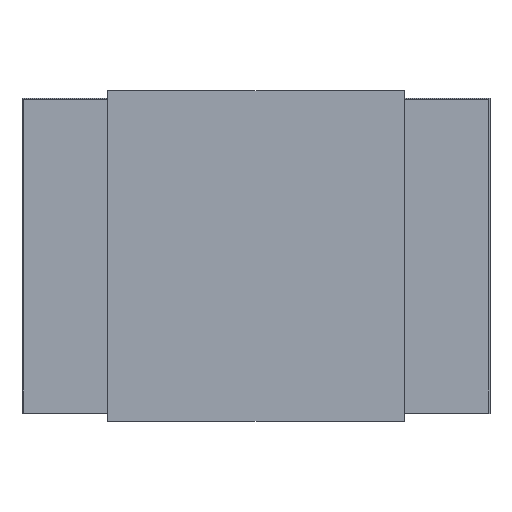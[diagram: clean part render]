
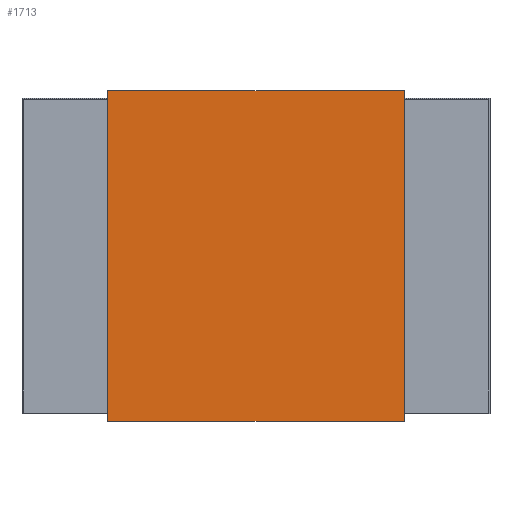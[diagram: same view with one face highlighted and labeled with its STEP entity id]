
A CAD part, left-side view. The second image highlights one B-rep face of the part: STEP entity #1713.
In plain terms, the highlighted planar face has unit normal (-1, 0, 0).
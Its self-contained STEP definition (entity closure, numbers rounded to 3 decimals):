
#1628=CARTESIAN_POINT('',(-1.054,-0.444,0.991));
#1627=VERTEX_POINT('',#1628);
#1646=CARTESIAN_POINT('',(-1.054,0.444,0.991));
#1645=VERTEX_POINT('',#1646);
#1654=EDGE_CURVE('',#1627,#1645,#1659,.T.);
#1659=LINE('',#1628,#1661);
#1661=VECTOR('',#1662,0.889);
#1662=DIRECTION('',(0.0,1.0,0.0));
#1713=ADVANCED_FACE('',(#1719),#1714,.T.);
#1714=PLANE('',#1715);
#1715=AXIS2_PLACEMENT_3D('',#1716,#1717,#1718);
#1716=CARTESIAN_POINT('',(-1.054,0.444,0.0));
#1717=DIRECTION('',(-1.0,0.0,0.0));
#1718=DIRECTION('',(0.,0.,1.));
#1719=FACE_OUTER_BOUND('',#1720,.T.);
#1720=EDGE_LOOP('',(#1721,#1731,#1741,#1751));
#1724=CARTESIAN_POINT('',(-1.054,-0.444,0.0));
#1723=VERTEX_POINT('',#1724);
#1726=CARTESIAN_POINT('',(-1.054,0.444,0.0));
#1725=VERTEX_POINT('',#1726);
#1722=EDGE_CURVE('',#1723,#1725,#1727,.T.);
#1727=LINE('',#1724,#1729);
#1729=VECTOR('',#1730,0.889);
#1730=DIRECTION('',(0.0,1.0,0.0));
#1721=ORIENTED_EDGE('',*,*,#1722,.F.);
#1732=EDGE_CURVE('',#1627,#1723,#1737,.T.);
#1737=LINE('',#1628,#1739);
#1739=VECTOR('',#1740,0.991);
#1740=DIRECTION('',(0.0,0.0,-1.0));
#1731=ORIENTED_EDGE('',*,*,#1732,.F.);
#1741=ORIENTED_EDGE('',*,*,#1654,.T.);
#1752=EDGE_CURVE('',#1725,#1645,#1757,.T.);
#1757=LINE('',#1726,#1759);
#1759=VECTOR('',#1760,0.991);
#1760=DIRECTION('',(0.0,0.0,1.0));
#1751=ORIENTED_EDGE('',*,*,#1752,.F.);
